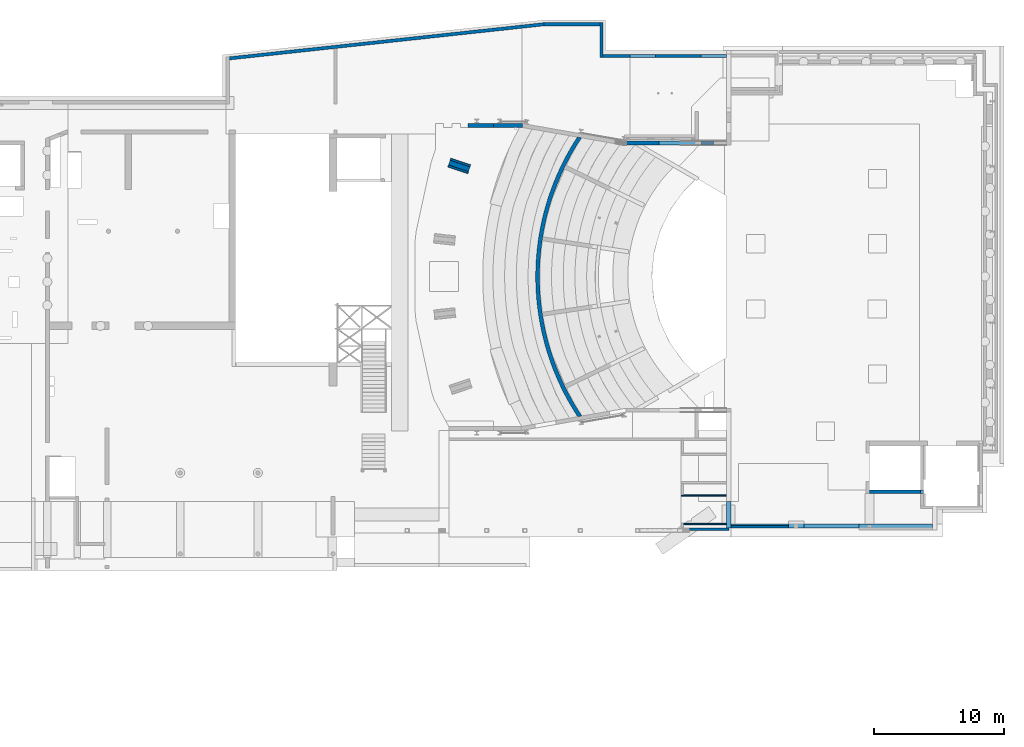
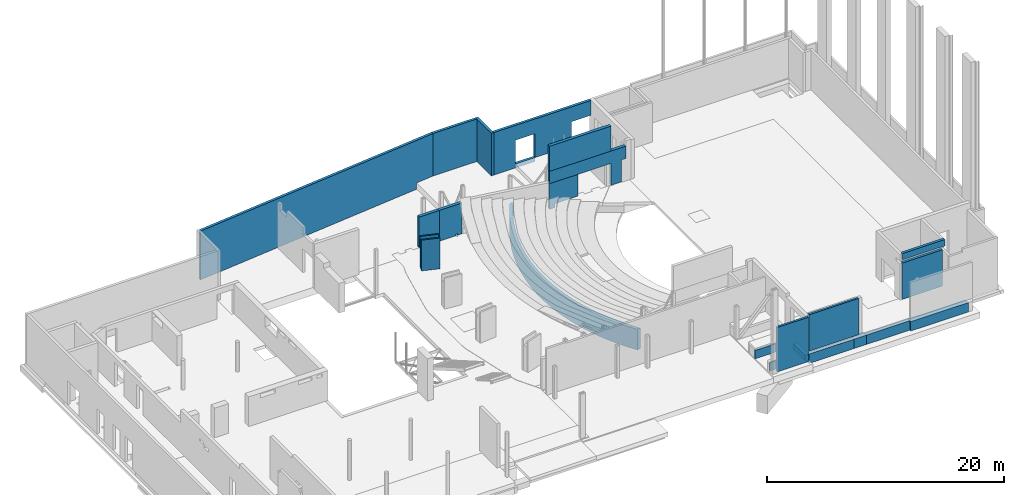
# One storey, part 26 of 34: 23 walls, 8 openings.
"""IFC2X3 building model written with IfcOpenShell, lengths in millimetres."""

from ifc_helpers import new_model, entity, si_unit, converted_unit, derived_unit, direction, frame, frame_2d, origin, origin_2d_with_axis, place, context, subcontext, project, spatial, polyline, circle_curve, parameter, trimmed, segment, composite_curve, rectangle, outline, extrude, clip, bounded_halfspace, material, layer, layer_set, layer_usage, type_object, element, save


model = new_model("IFC2X3")

# Units and contexts
model_context = context("Model", 3, precision=0.01, world=origin(), true_north=direction((6.12303176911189e-17, 1.0)))
body_context = subcontext(model_context, "Body", "Model", "MODEL_VIEW")
ifc_project = project(units=[si_unit("LENGTHUNIT", "METRE", prefix="MILLI"), si_unit("AREAUNIT", "SQUARE_METRE", prefix="MILLI"), si_unit("VOLUMEUNIT", "CUBIC_METRE"), converted_unit("PLANEANGLEUNIT", "DEGREE", entity("IfcRatioMeasure", 0.0174532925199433), si_unit("PLANEANGLEUNIT", "RADIAN"), dimensions=[0, 0, 0, 0, 0, 0, 0]), si_unit("MASSUNIT", "GRAM", prefix="KILO"), derived_unit("MASSDENSITYUNIT", [(si_unit("MASSUNIT", "GRAM", prefix="KILO"), 1), (si_unit("LENGTHUNIT", "METRE"), -3)]), derived_unit("MOMENTOFINERTIAUNIT", [(si_unit("LENGTHUNIT", "METRE"), 4)]), si_unit("TIMEUNIT", "SECOND"), si_unit("FREQUENCYUNIT", "HERTZ"), si_unit("THERMODYNAMICTEMPERATUREUNIT", "DEGREE_CELSIUS"), derived_unit("THERMALTRANSMITTANCEUNIT", [(si_unit("MASSUNIT", "GRAM", prefix="KILO"), 1), (si_unit("THERMODYNAMICTEMPERATUREUNIT", "KELVIN"), -1), (si_unit("TIMEUNIT", "SECOND"), -3)]), derived_unit("VOLUMETRICFLOWRATEUNIT", [(si_unit("LENGTHUNIT", "METRE"), 3), (si_unit("TIMEUNIT", "SECOND"), -1)]), si_unit("ELECTRICCURRENTUNIT", "AMPERE"), si_unit("ELECTRICVOLTAGEUNIT", "VOLT"), si_unit("POWERUNIT", "WATT"), si_unit("FORCEUNIT", "NEWTON", prefix="KILO"), si_unit("ILLUMINANCEUNIT", "LUX"), si_unit("LUMINOUSFLUXUNIT", "LUMEN"), si_unit("LUMINOUSINTENSITYUNIT", "CANDELA"), derived_unit("USERDEFINED", [(si_unit("MASSUNIT", "GRAM", prefix="KILO"), -1), (si_unit("LENGTHUNIT", "METRE"), -2), (si_unit("TIMEUNIT", "SECOND"), 3), (si_unit("LUMINOUSFLUXUNIT", "LUMEN"), 1)]), derived_unit("LINEARVELOCITYUNIT", [(si_unit("LENGTHUNIT", "METRE"), 1), (si_unit("TIMEUNIT", "SECOND"), -1)]), si_unit("PRESSUREUNIT", "PASCAL"), derived_unit("USERDEFINED", [(si_unit("LENGTHUNIT", "METRE"), -2), (si_unit("MASSUNIT", "GRAM", prefix="KILO"), 1), (si_unit("TIMEUNIT", "SECOND"), -2)]), derived_unit("LINEARFORCEUNIT", [(si_unit("MASSUNIT", "GRAM", prefix="KILO"), 1), (si_unit("LENGTHUNIT", "METRE"), 1), (si_unit("TIMEUNIT", "SECOND"), -2), (si_unit("LENGTHUNIT", "METRE"), -1)]), derived_unit("PLANARFORCEUNIT", [(si_unit("MASSUNIT", "GRAM", prefix="KILO"), 1), (si_unit("LENGTHUNIT", "METRE"), 1), (si_unit("TIMEUNIT", "SECOND"), -2), (si_unit("LENGTHUNIT", "METRE"), -2)])], contexts=[model_context])

# Site, building, storey
site_placement = place(None, origin())
site = spatial("IfcSite", under=ifc_project, at=site_placement, Name="Theater aan de Parade", CompositionType="ELEMENT")
building_placement = place(site_placement, origin())
building = spatial("IfcBuilding", under=site, at=building_placement, Name="Theater aan de Parade", CompositionType="ELEMENT")
storey_placement = place(building_placement, frame((0.0, 0.0, 3.49116848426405e-09)))
storey = spatial("IfcBuildingStorey", under=building, at=storey_placement, Name="00 begane grond", CompositionType="ELEMENT", Elevation=3.49116848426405e-09)

# Wall, openings
ifc_material_1 = material(Name="00_PBT_MAT_beton t.p.g.")
ifc_layer_1 = layer(ifc_material_1, 300.0)
ifc_layer_set_1 = layer_set([ifc_layer_1], Name="Basic Wall:28_PBT_WA_beton t.p.g._d=300_bestaand")
ifc_layer_usage_1 = layer_usage(ifc_layer_set_1, "AXIS2", "NEGATIVE", 150.0)
wall_type_1 = type_object("IfcWallType", Name="Basic Wall:28_PBT_WA_beton t.p.g._d=300_bestaand", PredefinedType="STANDARD", material=ifc_layer_set_1)
wall_1_placement = place(storey_placement, frame((59441.4285714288, 42700.0, 960.0)))
wall_1 = element("IfcWallStandardCase", 1, at=wall_1_placement, inside=storey, type_object=wall_type_1, material=ifc_layer_usage_1, Name="Basic Wall:28_PBT_WA_beton t.p.g._d=300_bestaand", ObjectType="Basic Wall:28_PBT_WA_beton t.p.g._d=300_bestaand", context=body_context, shape_type="SweptSolid", body=[
    extrude(rectangle(XDim=7414.8275295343, YDim=300.000000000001, at=frame_2d((3707.41376476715, 0.0), x_axis=(-1.0, 0.0))), origin(), (0.0, 0.0, 1.0), 3510.00000000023),
])
opening_1_placement = place(wall_1_placement, origin())
element("IfcOpeningElement", 2, at=opening_1_placement, cuts=wall_1, Name="Basic Wall:28_PBT_WA_beton t.p.g._d=300_bestaand", ObjectType="Opening", context=body_context, shape_type="SweptSolid", body=[
    extrude(rectangle(XDim=2240.00000000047, YDim=436.256100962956, at=frame_2d((0.0, 5.78666004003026e-11), x_axis=(0.0, -1.0))), frame((7196.69947905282, 150.0, 1120.0), z_axis=(0.0, 1.0, 0.0), x_axis=(-1.0, 0.0, 0.0)), (0.0, 0.0, -1.0), 300.0),
])
opening_2_placement = place(wall_1_placement, origin())
element("IfcOpeningElement", 3, at=opening_2_placement, cuts=wall_1, Name="Basic Wall:28_PBT_WA_beton t.p.g._d=300_bestaand", ObjectType="Opening", context=body_context, shape_type="SweptSolid", body=[
    extrude(rectangle(XDim=2240.00000000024, YDim=5978.57142857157, at=frame_2d((-2.27373675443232e-13, 4.32009983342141e-12), x_axis=(1.0, 0.0))), frame((2989.28571428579, 150.0, 1120.0), z_axis=(0.0, -1.0, 0.0), x_axis=(0.0, 0.0, 1.0)), (0.0, 0.0, 1.0), 300.0),
])

# Wall, opening
ifc_layer_usage_2 = layer_usage(ifc_layer_set_1, "AXIS2", "NEGATIVE", 150.0)
wall_2_placement = place(storey_placement, frame((56109.4045327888, 43194.3319966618, -60.0)))
wall_2 = element("IfcWallStandardCase", 4, at=wall_2_placement, inside=storey, type_object=wall_type_1, material=ifc_layer_usage_2, Name="Basic Wall:28_PBT_WA_beton t.p.g._d=300_bestaand", ObjectType="Basic Wall:28_PBT_WA_beton t.p.g._d=300_bestaand", context=body_context, shape_type="SweptSolid", body=[
    extrude(outline(composite_curve([segment(polyline([(124.888613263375, -83.0832972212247), (-197.381992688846, -26.6859411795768)]), True, "CONTINUOUS"), segment(trimmed(circle_curve(frame_2d((16150.5954672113, -10744.331996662), x_axis=(1.0, 0.0)), 19548.0), [parameter(146.751366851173)], [parameter(213.390190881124)], True, "PARAMETER"), True, "CONTINUOUS"), segment(polyline([(-170.852588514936, -21502.3354064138), (151.76905129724, -21445.8766194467)]), True, "CONTINUOUS"), segment(polyline([(151.769051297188, -21445.8766194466), (-114.996005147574, -21035.8837773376)]), True, "CONTINUOUS"), segment(polyline([(-114.996005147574, -21035.8837773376), (-371.256815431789, -20619.2447127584)]), True, "CONTINUOUS"), segment(polyline([(-371.256815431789, -20619.2447127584), (-616.847893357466, -20196.2284809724)]), True, "CONTINUOUS"), segment(polyline([(-616.847893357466, -20196.2284809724), (-851.610636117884, -19767.1082667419)]), True, "CONTINUOUS"), segment(polyline([(-851.610636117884, -19767.1082667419), (-1075.39378155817, -19332.1604932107)]), True, "CONTINUOUS"), segment(polyline([(-1075.39378155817, -19332.1604932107), (-1207.14770089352, -19062.6400594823)]), True, "CONTINUOUS"), segment(polyline([(-1207.14770089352, -19062.6400594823), (-1402.02078019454, -18643.1399365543)]), True, "CONTINUOUS"), segment(polyline([(-1402.02078019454, -18643.1399365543), (-1586.75729232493, -18219.0775497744)]), True, "CONTINUOUS"), segment(polyline([(-1586.75729232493, -18219.0775497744), (-1761.25040255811, -17790.6985452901)]), True, "CONTINUOUS"), segment(polyline([(-1761.25040255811, -17790.6985452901), (-1925.39931996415, -17358.2503854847)]), True, "CONTINUOUS"), segment(polyline([(-1925.39931996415, -17358.2503854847), (-2079.10926127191, -16921.9828052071)]), True, "CONTINUOUS"), segment(polyline([(-2079.10926127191, -16921.9828052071), (-2222.29147138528, -16482.1477432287)]), True, "CONTINUOUS"), segment(polyline([(-2222.29147138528, -16482.1477432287), (-2354.86327413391, -16038.9991979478)]), True, "CONTINUOUS"), segment(polyline([(-2354.86327413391, -16038.9991979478), (-2476.74812002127, -15592.7930806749)]), True, "CONTINUOUS"), segment(polyline([(-2476.74812002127, -15592.7930806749), (-2587.87563040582, -15143.7870678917)]), True, "CONTINUOUS"), segment(polyline([(-2587.87563040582, -15143.7870678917), (-2688.18163812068, -14692.2404524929)]), True, "CONTINUOUS"), segment(polyline([(-2688.18163812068, -14692.2404524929), (-2777.60822450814, -14238.4139940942)]), True, "CONTINUOUS"), segment(polyline([(-2777.60822450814, -14238.4139940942), (-2856.10384975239, -13782.5682353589)]), True, "CONTINUOUS"), segment(polyline([(-2856.10384975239, -13782.5682353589), (-2901.14683705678, -13485.9766154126)]), True, "CONTINUOUS"), segment(polyline([(-2901.14683705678, -13485.9766154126), (-2961.22480123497, -13029.9019532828)]), True, "CONTINUOUS"), segment(polyline([(-2961.22480123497, -13029.9019532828), (-3010.38616756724, -12572.5242162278)]), True, "CONTINUOUS"), segment(polyline([(-3010.38616756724, -12572.5242162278), (-3048.6032997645, -12114.1023081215)]), True, "CONTINUOUS"), segment(polyline([(-3048.6032997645, -12114.1023081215), (-3075.85437057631, -11654.8981035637)]), True, "CONTINUOUS"), segment(polyline([(-3075.85437057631, -11654.8981035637), (-3092.1238207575, -11195.1738807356)]), True, "CONTINUOUS"), segment(polyline([(-3092.1238207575, -11195.1738807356), (-3097.4023628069, -10735.1922146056)]), True, "CONTINUOUS"), segment(polyline([(-3097.4023628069, -10735.1922146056), (-3091.68698626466, -10275.2158269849)]), True, "CONTINUOUS"), segment(polyline([(-3091.68698626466, -10275.2158269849), (-3074.98095942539, -9815.50743650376)]), True, "CONTINUOUS"), segment(polyline([(-3074.98095942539, -9815.50743650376), (-3047.29382746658, -9356.32960858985)]), True, "CONTINUOUS"), segment(polyline([(-3047.29382746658, -9356.32960858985), (-3008.64140699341, -8897.94460553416)]), True, "CONTINUOUS"), segment(polyline([(-3008.64140699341, -8897.94460553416), (-2959.04577700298, -8440.61423673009)]), True, "CONTINUOUS"), segment(polyline([(-2959.04577700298, -8440.61423673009), (-2898.53486808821, -7984.59776267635)]), True, "CONTINUOUS"), segment(polyline([(-2898.53486808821, -7984.59776267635), (-2853.21022554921, -7688.04859961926)]), True, "CONTINUOUS"), segment(polyline([(-2853.21022554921, -7688.04859961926), (-2774.99934349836, -7236.14655959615)]), True, "CONTINUOUS"), segment(polyline([(-2774.99934349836, -7236.14655959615), (-2686.04421869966, -6786.23784124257)]), True, "CONTINUOUS"), segment(polyline([(-2686.04421869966, -6786.23784124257), (-2586.39519882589, -6338.5761272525)]), True, "CONTINUOUS"), segment(polyline([(-2586.39519882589, -6338.5761272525), (-2476.10884894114, -5893.41555555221)]), True, "CONTINUOUS"), segment(polyline([(-2476.10884894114, -5893.41555555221), (-2355.24777235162, -5451.00884454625)]), True, "CONTINUOUS"), segment(polyline([(-2355.24777235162, -5451.00884454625), (-2223.88057508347, -5011.60714968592)]), True, "CONTINUOUS"), segment(polyline([(-2223.88057508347, -5011.60714968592), (-2082.08182695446, -4575.45992092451)]), True, "CONTINUOUS"), segment(polyline([(-2082.08182695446, -4575.45992092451), (-1929.93201926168, -4142.81476113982)]), True, "CONTINUOUS"), segment(polyline([(-1929.93201926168, -4142.81476113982), (-1767.51751909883, -3713.91728557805)]), True, "CONTINUOUS"), segment(polyline([(-1767.51751909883, -3713.91728557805), (-1594.93052051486, -3289.01098285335)]), True, "CONTINUOUS"), segment(polyline([(-1594.93052051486, -3289.01098285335), (-1412.26901717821, -2868.33713233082)]), True, "CONTINUOUS"), segment(polyline([(-1412.26901717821, -2868.33713233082), (-1219.63708395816, -2452.1357351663)]), True, "CONTINUOUS"), segment(polyline([(-1219.63708395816, -2452.1357351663), (-1088.28754908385, -2182.41536834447)]), True, "CONTINUOUS"), segment(polyline([(-1088.28754908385, -2182.41536834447), (-866.981268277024, -1750.5793843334)]), True, "CONTINUOUS"), segment(polyline([(-866.981268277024, -1750.5793843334), (-634.859620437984, -1324.45930641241)]), True, "CONTINUOUS"), segment(polyline([(-634.859620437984, -1324.45930641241), (-392.070110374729, -904.325920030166)]), True, "CONTINUOUS"), segment(polyline([(-392.070110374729, -904.325920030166), (-138.767046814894, -490.446250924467)]), True, "CONTINUOUS"), segment(polyline([(-138.767046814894, -490.446250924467), (124.888613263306, -83.0832972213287)]), True, "CONTINUOUS")], self_intersect=False)), origin(), (0.0, 0.0, 1.0), 2131.0),
])
opening_3_placement = place(wall_2_placement, origin())
element("IfcOpeningElement", 5, at=opening_3_placement, cuts=wall_2, Name="Basic Wall:28_PBT_WA_beton t.p.g._d=300_bestaand", ObjectType="Opening", context=body_context, shape_type="SweptSolid", body=[
    extrude(rectangle(XDim=609.35337030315, YDim=899.999999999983, at=frame_2d((-7.87281351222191e-12, 1.54329882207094e-11), x_axis=(1.0, 0.0))), frame((-928.186406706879, -1375.59886549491, 810.0), z_axis=(0.0, 0.0, 1.0), x_axis=(-0.891006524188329, 0.453990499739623, 0.0)), (0.0, 0.0, 1.0), 300.0),
])

ifc_layer_usage_3 = layer_usage(ifc_layer_set_1, "AXIS2", "NEGATIVE", 150.0)
wall_3_placement = place(storey_placement, frame((49470.0, 44060.0, -60.0)))
wall_3 = element("IfcWallStandardCase", 6, at=wall_3_placement, inside=storey, type_object=wall_type_1, material=ifc_layer_usage_3, Name="Basic Wall:28_PBT_WA_beton t.p.g._d=300_bestaand", ObjectType="Basic Wall:28_PBT_WA_beton t.p.g._d=300_bestaand", context=body_context, shape_type="SweptSolid", body=[
    extrude(rectangle(XDim=2226.05204322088, YDim=300.000000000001, at=frame_2d((1113.02602161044, -1.56319401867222e-12), x_axis=(-1.0, 0.0))), origin(), (0.0, 0.0, 1.0), 3170.00000000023),
])
opening_4_placement = place(wall_3_placement, origin())
element("IfcOpeningElement", 7, at=opening_4_placement, cuts=wall_3, Name="Basic Wall:28_PBT_WA_beton t.p.g._d=300_bestaand", ObjectType="Opening", context=body_context, shape_type="SweptSolid", body=[
    extrude(rectangle(XDim=150.000000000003, YDim=150.000000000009, at=frame_2d((4.33431068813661e-12, 0.0), x_axis=(0.0, 1.0))), frame((1700.0, 150.0, 75.0), z_axis=(0.0, -1.0, 0.0), x_axis=(1.0, 0.0, 0.0)), (0.0, 0.0, 1.0), 300.0),
])

# Walls
ifc_layer_2 = layer(ifc_material_1, 400.0)
ifc_layer_set_2 = layer_set([ifc_layer_2], Name="Basic Wall:28_PBT_WA_beton t.p.g._d=400_bestaand")
ifc_layer_usage_4 = layer_usage(ifc_layer_set_2, "AXIS2", "POSITIVE", -200.0)
wall_type_2 = type_object("IfcWallType", Name="Basic Wall:28_PBT_WA_beton t.p.g._d=400_bestaand", PredefinedType="STANDARD", material=ifc_layer_set_2)
wall_4_placement = place(storey_placement, frame((47602.9615423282, 40698.8164484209, -60.0), z_axis=(0.0, 0.0, 1.0), x_axis=(-0.948323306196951, 0.317305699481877, 0.0)))
element("IfcWallStandardCase", 8, at=wall_4_placement, inside=storey, type_object=wall_type_2, material=ifc_layer_usage_4, Name="Basic Wall:28_PBT_WA_beton t.p.g._d=400_bestaand", ObjectType="Basic Wall:28_PBT_WA_beton t.p.g._d=400_bestaand", context=body_context, shape_type="SweptSolid", body=[
    extrude(rectangle(XDim=1599.99999999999, YDim=400.000000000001, at=frame_2d((799.999999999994, 1.13686837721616e-12), x_axis=(-1.0, 0.0))), origin(), (0.0, 0.0, 1.0), 2570.0),
])
ifc_material_2 = material(Name="00_PBT_MAT_beton t.p.g._C30/37")
ifc_layer_3 = layer(ifc_material_2, 300.0)
ifc_layer_set_3 = layer_set([ifc_layer_3], Name="Basic Wall:28_PBT_WA_beton t.p.g._d=300_C30/37")
ifc_layer_usage_5 = layer_usage(ifc_layer_set_3, "AXIS2", "NEGATIVE", 150.0)
wall_type_3 = type_object("IfcWallType", Name="Basic Wall:28_PBT_WA_beton t.p.g._d=300_C30/37", PredefinedType="STANDARD", material=ifc_layer_set_3)
wall_5_placement = place(storey_placement, frame((59441.4285714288, 42700.0, 4470.0)))
element("IfcWallStandardCase", 9, at=wall_5_placement, inside=storey, type_object=wall_type_3, material=ifc_layer_usage_5, Name="Basic Wall:28_PBT_WA_beton t.p.g._d=300_C30/37", ObjectType="Basic Wall:28_PBT_WA_beton t.p.g._d=300_C30/37", context=body_context, shape_type="SweptSolid", body=[
    extrude(rectangle(XDim=5978.57142857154, YDim=300.000000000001, at=frame_2d((2989.28571428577, -5.96855898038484e-13), x_axis=(-1.0, 0.0))), origin(), (0.0, 0.0, 1.0), 2580.0),
])

# Wall, opening
ifc_layer_usage_6 = layer_usage(ifc_layer_set_3, "AXIS2", "POSITIVE", -150.0)
wall_6_placement = place(storey_placement, frame((59441.4285714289, 42700.0, 560.0)))
wall_6 = element("IfcWallStandardCase", 10, at=wall_6_placement, inside=storey, type_object=wall_type_3, material=ifc_layer_usage_6, Name="Basic Wall:28_PBT_WA_beton t.p.g._d=300_C30/37", ObjectType="Basic Wall:28_PBT_WA_beton t.p.g._d=300_C30/37", context=body_context, shape_type="SweptSolid", body=[
    extrude(rectangle(XDim=2739.95502820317, YDim=300.000000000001, at=frame_2d((1369.97751410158, -3.5527136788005e-13), x_axis=(-1.0, 0.0))), origin(), (0.0, 0.0, 1.0), 2639.99999999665),
])
opening_5_placement = place(wall_6_placement, origin())
element("IfcOpeningElement", 11, at=opening_5_placement, cuts=wall_6, Name="Basic Wall:28_PBT_WA_beton t.p.g._d=300_C30/37", ObjectType="Opening", context=body_context, shape_type="SweptSolid", body=[
    extrude(rectangle(XDim=399.999999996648, YDim=2216.50134323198, at=frame_2d((-4.32009983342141e-12, -2.8421709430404e-14), x_axis=(0.0, 1.0))), frame((1631.70435658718, 150.0, 200.0), z_axis=(0.0, -1.0, 0.0), x_axis=(1.0, 0.0, 0.0)), (0.0, 0.0, 1.0), 300.0),
])

# Walls
ifc_layer_usage_7 = layer_usage(ifc_layer_set_3, "AXIS2", "NEGATIVE", 150.0)
wall_7_placement = place(storey_placement, frame((47506.1710167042, 44060.0, -60.0)))
element("IfcWallStandardCase", 12, at=wall_7_placement, inside=storey, type_object=wall_type_3, material=ifc_layer_usage_7, Name="Basic Wall:28_PBT_WA_beton t.p.g._d=300_C30/37", ObjectType="Basic Wall:28_PBT_WA_beton t.p.g._d=300_C30/37", context=body_context, shape_type="SweptSolid", body=[
    extrude(rectangle(XDim=1963.82898329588, YDim=300.000000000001, at=frame_2d((981.914491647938, 4.2632564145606e-14), x_axis=(-1.0, 0.0))), origin(), (0.0, 0.0, 1.0), 3169.9999999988),
])
ifc_layer_4 = layer(ifc_material_2, 250.0)
ifc_layer_set_4 = layer_set([ifc_layer_4], Name="Basic Wall:28_PBT_WA_beton t.p.g._d=250_C30/37")
ifc_layer_usage_8 = layer_usage(ifc_layer_set_4, "AXIS2", "NEGATIVE", 125.0)
wall_type_4 = type_object("IfcWallType", Name="Basic Wall:28_PBT_WA_beton t.p.g._d=250_C30/37", PredefinedType="STANDARD", material=ifc_layer_set_4)
wall_8_placement = place(storey_placement, frame((53371.6537622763, 51836.2485492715, -90.0), z_axis=(0.0, 0.0, 1.0), x_axis=(-0.994164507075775, -0.107874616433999, 0.0)))
element("IfcWallStandardCase", 13, at=wall_8_placement, inside=storey, type_object=wall_type_4, material=ifc_layer_usage_8, Name="Basic Wall:28_PBT_WA_beton t.p.g._d=250_C30/37", ObjectType="Basic Wall:28_PBT_WA_beton t.p.g._d=250_C30/37", context=body_context, shape_type="Clipping", body=[
    clip(clip(extrude(outline(polyline([(0.0, -125.0), (24311.1393505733, -125.0), (24338.2663038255, 125.0), (16276.2599590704, 125.0), (13.5237860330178, 125.0), (0.0, -125.0)])), origin(), (0.0, 0.0, 1.0), 5029.99999999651), bounded_halfspace(frame((1702.15780354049, -125.0, 650.0), z_axis=(0.0, 0.0, 1.0), x_axis=(-0.960686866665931, 0.277634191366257, 0.0)), True, frame((1702.15780354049, -125.0, 650.0)), polyline([(0.0, 0.0), (27.1269532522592, 250.0), (-1688.63401750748, 250.0), (-1702.1578035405, 0.0), (0.0, 0.0)]))), bounded_halfspace(frame((24311.1393505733, -125.0, 0.0)), True, frame((24311.1393505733, -125.0, 0.0)), polyline([(0.0, 0.0), (27.1269532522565, 250.0), (-8034.87939150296, 250.0), (-8286.34682794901, 250.0), (-22581.8545937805, 250.0), (-22608.9815470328, 0.0), (0.0, 0.0)]))),
])
ifc_layer_usage_9 = layer_usage(ifc_layer_set_4, "AXIS2", "NEGATIVE", 125.0)
wall_9_placement = place(storey_placement, frame((78350.1000324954, 15935.0, 880.0)))
element("IfcWallStandardCase", 14, at=wall_9_placement, inside=storey, type_object=wall_type_4, material=ifc_layer_usage_9, Name="Basic Wall:28_PBT_WA_beton t.p.g._d=250_C30/37", ObjectType="Basic Wall:28_PBT_WA_beton t.p.g._d=250_C30/37", context=body_context, shape_type="SweptSolid", body=[
    extrude(rectangle(XDim=3899.90838921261, YDim=249.999999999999, at=frame_2d((1949.9541946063, -2.41584530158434e-13), x_axis=(-1.0, 0.0))), origin(), (0.0, 0.0, 1.0), 3739.99999999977),
])
ifc_layer_usage_10 = layer_usage(ifc_layer_set_4, "AXIS2", "NEGATIVE", 125.0)
wall_10_placement = place(storey_placement, frame((57762.0315633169, 49261.9979908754, 560.0), z_axis=(0.0, 0.0, 1.0), x_axis=(0.0, 1.0, 0.0)))
element("IfcWallStandardCase", 15, at=wall_10_placement, inside=storey, type_object=wall_type_4, material=ifc_layer_usage_10, Name="Basic Wall:28_PBT_WA_beton t.p.g._d=250_C30/37", ObjectType="Basic Wall:28_PBT_WA_beton t.p.g._d=250_C30/37", context=body_context, shape_type="Clipping", body=[
    clip(extrude(rectangle(XDim=2698.52112178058, YDim=249.999999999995, at=frame_2d((1349.26056089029, 0.0), x_axis=(-1.0, 0.0))), origin(), (0.0, 0.0, 1.0), 4379.99999999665), bounded_halfspace(frame((0.0, 125.0, 0.0), z_axis=(0.0, 0.0, 1.0), x_axis=(-0.172380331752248, -0.985030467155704, 0.0)), True, frame((0.0, 125.0, 0.0)), polyline([(0.0, 0.0), (0.0, -250.0), (250.0, -250.0), (2698.52112178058, -250.0), (2698.52112178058, 0.0), (2448.52112178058, 0.0), (0.0, 0.0)]))),
])

# Wall, openings
ifc_layer_usage_11 = layer_usage(ifc_layer_set_4, "AXIS2", "POSITIVE", -125.0)
wall_11_placement = place(storey_placement, frame((67356.2561009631, 49386.9979908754, 560.0), z_axis=(0.0, 0.0, 1.0), x_axis=(-1.0, 0.0, 0.0)))
wall_11 = element("IfcWallStandardCase", 16, at=wall_11_placement, inside=storey, type_object=wall_type_4, material=ifc_layer_usage_11, Name="Basic Wall:28_PBT_WA_beton t.p.g._d=250_C30/37", ObjectType="Basic Wall:28_PBT_WA_beton t.p.g._d=250_C30/37", context=body_context, shape_type="Clipping", body=[
    clip(clip(clip(extrude(rectangle(XDim=9469.22453764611, YDim=249.999999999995, at=frame_2d((4734.61226882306, -2.03925765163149e-12), x_axis=(-1.0, 0.0))), origin(), (0.0, 0.0, 1.0), 4379.9999999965), bounded_halfspace(frame((5457.69631986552, 125.0, 400.0), z_axis=(0.0, 0.0, 1.0), x_axis=(0.0, -1.0, 0.0)), True, frame((5457.69631986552, 125.0, 400.0)), polyline([(0.0, 0.0), (-3523.69631986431, 0.0), (-3523.69631986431, -250.0), (0.0, -250.0), (0.0, 0.0)]))), bounded_halfspace(frame((9469.22453764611, -125.0, 0.0), z_axis=(0.0, 0.0, 1.0), x_axis=(-0.985030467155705, 0.172380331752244, 0.0)), True, frame((9469.22453764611, -125.0, 0.0)), polyline([(0.0, 0.0), (0.0, 250.0), (-2077.85069308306, 250.0), (-2077.85069308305, 0.0), (0.0, 0.0)]))), bounded_halfspace(frame((5457.69631986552, 125.0, 400.0), z_axis=(0.0, 0.0, 1.0), x_axis=(0.0, -1.0, 0.0)), True, frame((5457.69631986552, 125.0, 400.0)), polyline([(0.0, 0.0), (-3523.69631986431, 0.0), (-3523.69631986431, -250.0), (0.0, -250.0), (0.0, 0.0)]))),
])
opening_6_placement = place(wall_11_placement, origin())
element("IfcOpeningElement", 17, at=opening_6_placement, cuts=wall_11, Name="Basic Wall:28_PBT_WA_beton t.p.g._d=250_C30/37", ObjectType="Opening", context=body_context, shape_type="SweptSolid", body=[
    extrude(rectangle(XDim=2459.99999999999, YDim=1934.0, at=frame_2d((0.0, 4.37694325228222e-12), x_axis=(1.0, 0.0))), frame((6424.69631986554, -125.0, 1630.0), z_axis=(0.0, 1.0, 0.0), x_axis=(0.0, 0.0, -1.0)), (0.0, 0.0, 1.0), 249.999999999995),
])
opening_7_placement = place(wall_11_placement, origin())
element("IfcOpeningElement", 18, at=opening_7_placement, cuts=wall_11, Name="Basic Wall:28_PBT_WA_beton t.p.g._d=250_C30/37", ObjectType="Opening", context=body_context, shape_type="SweptSolid", body=[
    extrude(rectangle(XDim=2459.99999999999, YDim=1934.0, at=frame_2d((0.0, -4.37694325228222e-12), x_axis=(1.0, 0.0))), frame((967.0, -125.0, 1630.0), z_axis=(0.0, 1.0, 0.0), x_axis=(0.0, 0.0, -1.0)), (0.0, 0.0, 1.0), 249.999999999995),
])

# Walls
ifc_layer_usage_12 = layer_usage(ifc_layer_set_4, "AXIS2", "NEGATIVE", 125.0)
wall_12_placement = place(storey_placement, frame((78350.1000324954, 15934.9960954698, 4940.0)))
element("IfcWallStandardCase", 19, at=wall_12_placement, inside=storey, type_object=wall_type_4, material=ifc_layer_usage_12, Name="Basic Wall:28_PBT_WA_beton t.p.g._d=250_C30/37", ObjectType="Basic Wall:28_PBT_WA_beton t.p.g._d=250_C30/37", context=body_context, shape_type="Clipping", body=[
    clip(extrude(rectangle(XDim=4149.9083892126, YDim=249.999999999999, at=frame_2d((2074.9541946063, -3.76587649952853e-13), x_axis=(-1.0, 0.0))), origin(), (0.0, 0.0, 1.0), 660.000000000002), bounded_halfspace(frame((0.0, -125.0, 660.0), z_axis=(0.0, 0.0, -1.0), x_axis=(-1.0, 0.0, 0.0)), True, frame((0.0, -125.0, 660.0)), polyline([(0.0, 0.0), (4149.9083892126, 0.0), (4149.9083892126, 250.0), (3899.90838921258, 250.0), (0.0, 250.0), (0.0, 0.0)]))),
])
ifc_layer_usage_13 = layer_usage(ifc_layer_set_4, "AXIS2", "NEGATIVE", 125.0)
wall_13_placement = place(storey_placement, frame((57637.0315633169, 51835.519112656, 560.0), z_axis=(0.0, 0.0, 1.0), x_axis=(-1.0, 0.0, 0.0)))
element("IfcWallStandardCase", 20, at=wall_13_placement, inside=storey, type_object=wall_type_4, material=ifc_layer_usage_13, Name="Basic Wall:28_PBT_WA_beton t.p.g._d=250_C30/37", ObjectType="Basic Wall:28_PBT_WA_beton t.p.g._d=250_C30/37", context=body_context, shape_type="Clipping", body=[
    clip(extrude(outline(polyline([(0.0, -125.0), (4278.86212809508, -125.0), (4265.33834206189, 125.0), (0.0, 125.0), (0.0, -125.0)])), origin(), (0.0, 0.0, 1.0), 4379.99999999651), bounded_halfspace(frame((4278.86212809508, -125.0, 0.0), z_axis=(0.0, 0.0, 1.0), x_axis=(-0.985030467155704, 0.172380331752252, 0.0)), True, frame((4278.86212809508, -125.0, 0.0)), polyline([(0.0, 0.0), (-13.5237860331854, 250.0), (-4278.86212809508, 250.0), (-4278.86212809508, 0.0), (0.0, 0.0)]))),
])
ifc_layer_5 = layer(ifc_material_2, 200.0)
ifc_layer_set_5 = layer_set([ifc_layer_5], Name="Basic Wall:28_PBT_WA_beton t.p.g._d=200_C30/37")
ifc_layer_usage_14 = layer_usage(ifc_layer_set_5, "AXIS2", "POSITIVE", -100.0)
wall_type_5 = type_object("IfcWallType", Name="Basic Wall:28_PBT_WA_beton t.p.g._d=200_C30/37", PredefinedType="STANDARD", material=ifc_layer_set_5)
wall_14_placement = place(storey_placement, frame((64505.0, 13050.0, -20.0)))
element("IfcWallStandardCase", 21, at=wall_14_placement, inside=storey, type_object=wall_type_5, material=ifc_layer_usage_14, Name="Basic Wall:28_PBT_WA_beton t.p.g._d=200_C30/37", ObjectType="Basic Wall:28_PBT_WA_beton t.p.g._d=200_C30/37", context=body_context, shape_type="Clipping", body=[
    clip(extrude(rectangle(XDim=3065.0, YDim=199.999999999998, at=frame_2d((1532.5, -5.6843418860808e-13), x_axis=(-1.0, 0.0))), origin(), (0.0, 0.0, 1.0), 4580.00000000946), bounded_halfspace(frame((0.0, -100.0, 4580.0), z_axis=(0.0, 0.0, -1.0), x_axis=(-1.0, 0.0, 0.0)), True, frame((0.0, -100.0, 4580.0)), polyline([(0.0, 0.0), (3065.0, 0.0), (3065.0, 200.0), (2851.25610096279, 200.0), (2811.25610096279, 200.0), (9.55207550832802, 200.0), (0.0, 200.0), (0.0, 0.0)]))),
])
ifc_layer_usage_15 = layer_usage(ifc_layer_set_5, "AXIS2", "POSITIVE", -100.0)
wall_15_placement = place(storey_placement, frame((67706.2561009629, 13250.0, 880.0)))
element("IfcWallStandardCase", 22, at=wall_15_placement, inside=storey, type_object=wall_type_5, material=ifc_layer_usage_15, Name="Basic Wall:28_PBT_WA_beton t.p.g._d=200_C30/37", ObjectType="Basic Wall:28_PBT_WA_beton t.p.g._d=200_C30/37", context=body_context, shape_type="SweptSolid", body=[
    extrude(rectangle(XDim=4863.74389903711, YDim=199.999999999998, at=frame_2d((2431.87194951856, -1.70530256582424e-13), x_axis=(-1.0, 0.0))), origin(), (0.0, 0.0, 1.0), 3739.99999999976),
])
ifc_material_3 = material(Name="00_PBT_MAT_beton t.p.g._C53/65")
ifc_layer_6 = layer(ifc_material_3, 350.0)
ifc_layer_set_6 = layer_set([ifc_layer_6], Name="Basic Wall:28_PBT_WA_beton t.p.g._d=350_C53/65")
ifc_layer_usage_16 = layer_usage(ifc_layer_set_6, "AXIS2", "POSITIVE", -175.0)
wall_type_6 = type_object("IfcWallType", Name="Basic Wall:28_PBT_WA_beton t.p.g._d=350_C53/65", PredefinedType="STANDARD", material=ifc_layer_set_6)
wall_16_placement = place(storey_placement, frame((67531.256100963, 13150.0, -20.0), z_axis=(0.0, 0.0, 1.0), x_axis=(0.0, 1.0, 0.0)))
element("IfcWallStandardCase", 23, at=wall_16_placement, inside=storey, type_object=wall_type_6, material=ifc_layer_usage_16, Name="Basic Wall:28_PBT_WA_beton t.p.g._d=350_C53/65", ObjectType="Basic Wall:28_PBT_WA_beton t.p.g._d=350_C53/65", context=body_context, shape_type="Clipping", body=[
    clip(extrude(rectangle(XDim=2020.00000000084, YDim=350.000000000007, at=frame_2d((1010.00000000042, 0.0), x_axis=(-1.0, 0.0))), origin(), (0.0, 0.0, 1.0), 600.000000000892), bounded_halfspace(frame((0.0, -175.0, 600.0), z_axis=(0.0, 0.0, -1.0), x_axis=(1.0, 0.0, 0.0)), True, frame((0.0, -175.0, 600.0), z_axis=(0.0, 0.0, -1.0), x_axis=(1.0, 0.0, 0.0)), polyline([(0.0, 0.0), (0.0, -350.0), (2020.0, -350.0), (2020.0, 0.0), (320.0, 0.0), (0.0, 0.0)]))),
])
ifc_layer_7 = layer(ifc_material_2, 150.0)
ifc_layer_set_7 = layer_set([ifc_layer_7], Name="Basic Wall:28_PBT_WA_beton t.p.g._d=150_C30/37")
ifc_layer_usage_17 = layer_usage(ifc_layer_set_7, "AXIS2", "POSITIVE", -75.0)
wall_type_7 = type_object("IfcWallType", Name="Basic Wall:28_PBT_WA_beton t.p.g._d=150_C30/37", PredefinedType="STANDARD", material=ifc_layer_set_7)
wall_17_placement = place(storey_placement, frame((47690.2206096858, 40959.605357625, -60.0), z_axis=(0.0, 0.0, 1.0), x_axis=(-0.948323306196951, 0.317305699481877, 0.0)))
element("IfcWallStandardCase", 24, at=wall_17_placement, inside=storey, type_object=wall_type_7, material=ifc_layer_usage_17, Name="Basic Wall:28_PBT_WA_beton t.p.g._d=150_C30/37", ObjectType="Basic Wall:28_PBT_WA_beton t.p.g._d=150_C30/37", context=body_context, shape_type="SweptSolid", body=[
    extrude(rectangle(XDim=1600.00000000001, YDim=149.999999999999, at=frame_2d((800.000000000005, -4.34141611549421e-12), x_axis=(-1.0, 0.0))), origin(), (0.0, 0.0, 1.0), 3169.99999999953),
])
ifc_layer_usage_18 = layer_usage(ifc_layer_set_7, "AXIS2", "NEGATIVE", 75.0)
wall_18_placement = place(storey_placement, frame((47515.7024749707, 40438.0275392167, -60.0), z_axis=(0.0, 0.0, 1.0), x_axis=(-0.948323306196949, 0.317305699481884, 0.0)))
element("IfcWallStandardCase", 25, at=wall_18_placement, inside=storey, type_object=wall_type_7, material=ifc_layer_usage_18, Name="Basic Wall:28_PBT_WA_beton t.p.g._d=150_C30/37", ObjectType="Basic Wall:28_PBT_WA_beton t.p.g._d=150_C30/37", context=body_context, shape_type="SweptSolid", body=[
    extrude(rectangle(XDim=1599.99999999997, YDim=149.999999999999, at=frame_2d((799.999999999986, 4.46931380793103e-12), x_axis=(-1.0, 0.0))), origin(), (0.0, 0.0, 1.0), 3169.99999999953),
])
ifc_layer_usage_19 = layer_usage(ifc_layer_set_7, "AXIS2", "NEGATIVE", 75.0)
wall_19_placement = place(storey_placement, frame((67356.256100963, 15640.7628275, -20.0), z_axis=(0.0, 0.0, 1.0), x_axis=(-1.0, 0.0, 0.0)))
element("IfcWallStandardCase", 26, at=wall_19_placement, inside=storey, type_object=wall_type_7, material=ifc_layer_usage_19, Name="Basic Wall:28_PBT_WA_beton t.p.g._d=150_C30/37", ObjectType="Basic Wall:28_PBT_WA_beton t.p.g._d=150_C30/37", context=body_context, shape_type="SweptSolid", body=[
    extrude(rectangle(XDim=3475.99654986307, YDim=150.000000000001, at=frame_2d((1737.99827493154, 3.76587649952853e-13), x_axis=(-1.0, 0.0))), origin(), (0.0, 0.0, 1.0), 860.000000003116),
])
ifc_layer_usage_20 = layer_usage(ifc_layer_set_7, "AXIS2", "POSITIVE", -75.0)
wall_20_placement = place(storey_placement, frame((67356.256100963, 13450.7628275, -20.0), z_axis=(0.0, 0.0, 1.0), x_axis=(-1.0, 0.0, 0.0)))
element("IfcWallStandardCase", 27, at=wall_20_placement, inside=storey, type_object=wall_type_7, material=ifc_layer_usage_20, Name="Basic Wall:28_PBT_WA_beton t.p.g._d=150_C30/37", ObjectType="Basic Wall:28_PBT_WA_beton t.p.g._d=150_C30/37", context=body_context, shape_type="Clipping", body=[
    clip(extrude(rectangle(XDim=3325.99654986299, YDim=150.000000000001, at=frame_2d((1662.99827493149, 2.20268248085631e-13), x_axis=(-1.0, 0.0))), origin(), (0.0, 0.0, 1.0), 860.000000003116), bounded_halfspace(frame((3325.99654986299, -75.0, 860.0), z_axis=(-1.0, 0.0, 0.0), x_axis=(0.0, -1.0, 0.0)), True, frame((3325.99654986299, -75.0, 860.0), z_axis=(-1.0, 0.0, 0.0), x_axis=(0.0, -1.0, 0.0)), polyline([(0.0, 0.0), (-150.0, 0.0), (-150.0, -860.0), (0.0, -860.0), (0.0, 0.0)]))),
])

# Wall, opening
ifc_layer_8 = layer(ifc_material_2, 320.0)
ifc_layer_set_8 = layer_set([ifc_layer_8], Name="Basic Wall:16_PBT_WA_beton t.p.g._d=320_C30/37")
ifc_layer_usage_21 = layer_usage(ifc_layer_set_8, "AXIS2", "POSITIVE", -160.0)
wall_type_8 = type_object("IfcWallType", Name="Basic Wall:16_PBT_WA_beton t.p.g._d=320_C30/37", PredefinedType="STANDARD", material=ifc_layer_set_8)
wall_21_placement = place(storey_placement, frame((67706.256100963, 13310.0, -390.0)))
wall_21 = element("IfcWallStandardCase", 28, at=wall_21_placement, inside=storey, type_object=wall_type_8, material=ifc_layer_usage_21, Name="Basic Wall:16_PBT_WA_beton t.p.g._d=320_C30/37", ObjectType="Basic Wall:16_PBT_WA_beton t.p.g._d=320_C30/37", context=body_context, shape_type="SweptSolid", body=[
    extrude(rectangle(XDim=9831.74389903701, YDim=320.000000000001, at=frame_2d((4915.87194951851, 2.27373675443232e-13), x_axis=(-1.0, 0.0))), origin(), (0.0, 0.0, 1.0), 970.000000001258),
])
opening_8_placement = place(storey_placement, frame((67706.256100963, 13310.0, -390.0)))
element("IfcOpeningElement", 29, at=opening_8_placement, cuts=wall_21, Name="Basic Wall:16_PBT_WA_beton t.p.g._d=320_C30/37:1", ObjectType="Opening", context=body_context, shape_type="SweptSolid", body=[
    extrude(rectangle(XDim=970.000000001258, YDim=320.000000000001, at=origin_2d_with_axis()), frame((4413.74389903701, 0.0, 485.0), z_axis=(1.0, 0.0, 0.0), x_axis=(0.0, 0.0, -1.0)), (0.0, 0.0, 1.0), 1200.0),
])

# Walls
ifc_layer_9 = layer(ifc_material_2, 520.0)
ifc_layer_set_9 = layer_set([ifc_layer_9], Name="Basic Wall:16_PBT_WA_beton t.p.g._d=520_C30/37")
ifc_layer_usage_22 = layer_usage(ifc_layer_set_9, "AXIS2", "NEGATIVE", 260.0)
wall_type_9 = type_object("IfcWallType", Name="Basic Wall:16_PBT_WA_beton t.p.g._d=520_C30/37", PredefinedType="STANDARD", material=ifc_layer_set_9)
wall_22_placement = place(storey_placement, frame((72120.0, 13410.0, -390.0)))
element("IfcWallStandardCase", 30, at=wall_22_placement, inside=storey, type_object=wall_type_9, material=ifc_layer_usage_22, Name="Basic Wall:16_PBT_WA_beton t.p.g._d=520_C30/37", ObjectType="Basic Wall:16_PBT_WA_beton t.p.g._d=520_C30/37", context=body_context, shape_type="SweptSolid", body=[
    extrude(rectangle(XDim=1200.0, YDim=519.999999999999, at=frame_2d((600.000000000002, 2.27373675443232e-13), x_axis=(-1.0, 0.0))), origin(), (0.0, 0.0, 1.0), 970.000000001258),
])
ifc_layer_10 = layer(ifc_material_2, 478.0)
ifc_layer_set_10 = layer_set([ifc_layer_10], Name="Basic Wall:16_PBT_WA_beton t.p.g._d=478_C30/37")
ifc_layer_usage_23 = layer_usage(ifc_layer_set_10, "AXIS2", "POSITIVE", -239.0)
wall_type_10 = type_object("IfcWallType", Name="Basic Wall:16_PBT_WA_beton t.p.g._d=478_C30/37", PredefinedType="STANDARD", material=ifc_layer_set_10)
wall_23_placement = place(storey_placement, frame((77538.0, 13231.0, -390.0)))
element("IfcWallStandardCase", 31, at=wall_23_placement, inside=storey, type_object=wall_type_10, material=ifc_layer_usage_23, Name="Basic Wall:16_PBT_WA_beton t.p.g._d=478_C30/37", ObjectType="Basic Wall:16_PBT_WA_beton t.p.g._d=478_C30/37", context=body_context, shape_type="SweptSolid", body=[
    extrude(rectangle(XDim=5631.99999999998, YDim=478.0, at=frame_2d((2815.99999999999, 4.83169060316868e-13), x_axis=(-1.0, 0.0))), origin(), (0.0, 0.0, 1.0), 970.000000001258),
])

save(model, "model.ifc")
